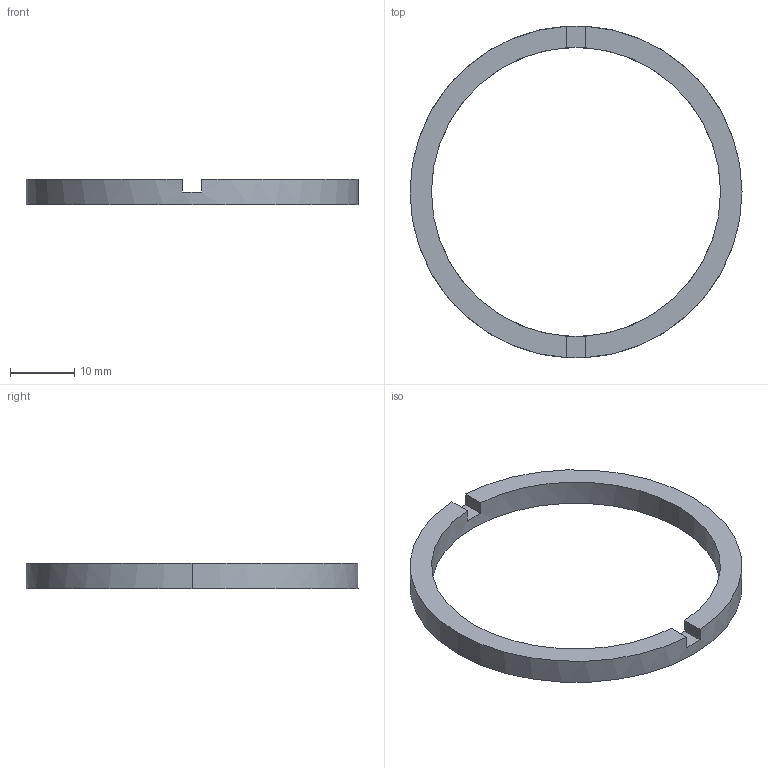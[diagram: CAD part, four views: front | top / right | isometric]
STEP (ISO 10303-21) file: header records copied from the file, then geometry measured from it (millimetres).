
FILE_DESCRIPTION (( 'STEP AP203' ), '1' );
FILE_NAME ('錨璃24.STEP', '2024-05-31T02:12:39', ( '' ), ( '' ), 'SwSTEP 2.0', 'SolidWorks 2024', '' );
FILE_SCHEMA (( 'CONFIG_CONTROL_DESIGN' ));
Length unit declared in the file: millimetre
Products named in the file (1): 零件24
Bounding box: 51.5 x 51.5 x 4 mm (x, y, z)
Volume: 1974 mm3; surface area: 2220.4 mm2
Topology: 1 solids, 1 shells, 13 faces, 36 edges, 24 vertices
Faces by surface type: plane 9, cylinder 4
Entity records: 507 total; most frequent: DIRECTION 80, CARTESIAN_POINT 74, ORIENTED_EDGE 72, EDGE_CURVE 36, AXIS2_PLACEMENT_3D 30, VERTEX_POINT 24, LINE 20, VECTOR 20
